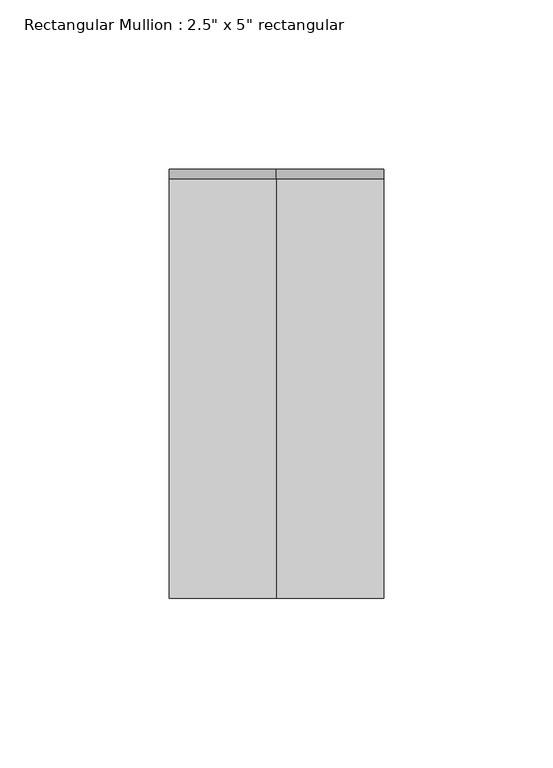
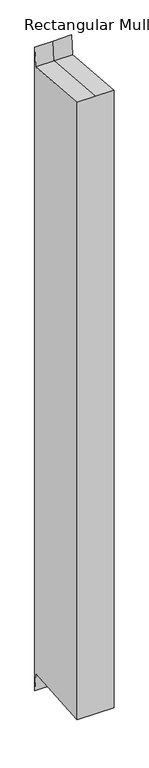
"""IFC4 building model written with IfcOpenShell, lengths in millimetres: member geometry."""

from ifc_helpers import new_model, si_unit, origin, place, context, project, spatial, faceted_brep, source, transform, mapped, element, save


def member_f830fa99(model_context):
    return source(origin(), model_context, "Body", "Brep", [
        faceted_brep([(-31.75, 63.5, 29.1236206), (0.0, 63.5, 29.1236206), (31.75, 63.5, 29.1236206), (31.75, 63.5, -1144.68945), (0.0, 63.5, -1144.68945), (-31.75, 63.5, -1144.68945), (-31.75, -63.5, 5.152946), (-31.75, 60.6612211, -5.1353461), (-31.75, 60.6612211, -1110.4304833), (-31.75, -63.5, -1120.7187754), (31.75, -63.5, 5.152946), (0.0, -63.5, 5.152946), (0.0, -63.5, -1120.7187754), (31.75, -63.5, -1120.7187754), (31.75, 60.6612211, -5.1353461), (31.75, 60.6612211, -1110.4304833), (0.0, 60.6612211, -5.1353461), (0.0, 60.6612211, -1110.4304833)], [[[0, 1, 2, 3, 4, 5]], [[6, 7, 0, 5, 8, 9]], [[10, 11, 6, 9, 12, 13]], [[2, 14, 10, 13, 15, 3]], [[2, 1, 16, 14]], [[1, 0, 7, 16]], [[7, 6, 11, 16]], [[11, 10, 14, 16]], [[3, 15, 17, 4]], [[15, 13, 12, 17]], [[12, 9, 8, 17]], [[8, 5, 4, 17]]]),
    ])


if __name__ == "__main__":
    model = new_model("IFC4")
    model_context = context("Model", 3, world=origin())
    ifc_project = project(units=[si_unit("LENGTHUNIT", "METRE", prefix="MILLI")], contexts=[model_context])
    site = spatial("IfcSite", under=ifc_project)
    building = spatial("IfcBuilding", under=site)
    placement = place(None, origin())
    member_shape = member_f830fa99(model_context)
    element("IfcMember", 1, ObjectType="Rectangular Mullion : 2.5\" x 5\" rectangular", at=placement, inside=building, context=model_context, shape_type="MappedRepresentation", body=[
        mapped(member_shape, transform((0.0, 0.0, 0.0), x_axis=(1.0, 0.0, 0.0), y_axis=(0.0, 1.0, 0.0), z_axis=(0.0, 0.0, 1.0))),
    ])
    save(model, "model.ifc")
